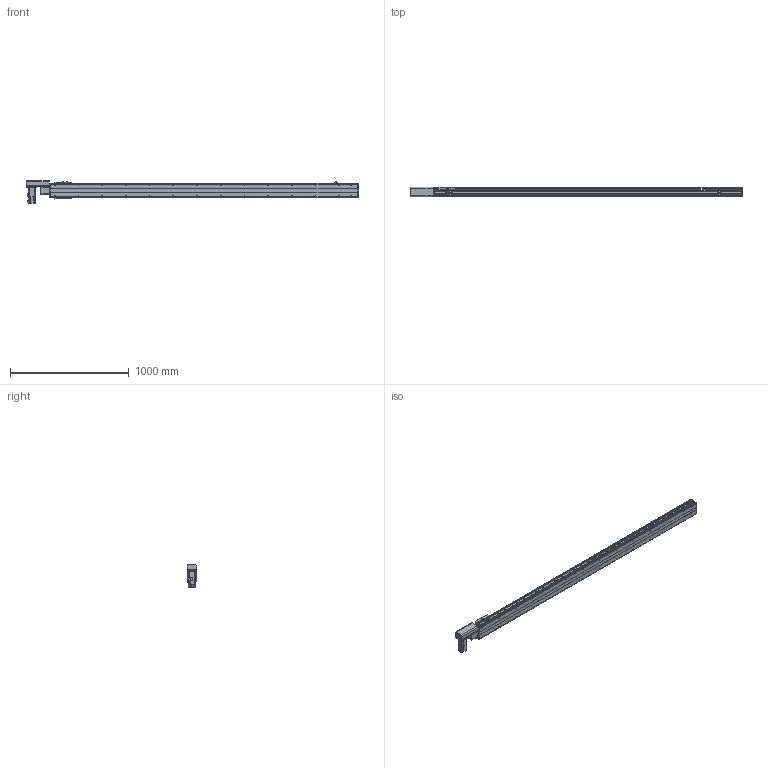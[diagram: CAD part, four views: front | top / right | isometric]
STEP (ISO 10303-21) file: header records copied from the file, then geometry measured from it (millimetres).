
FILE_DESCRIPTION(/* description */ ('STEP AP214'),/* implementation_level */ '2;1');
FILE_NAME(/* name */ 'PBS120-P40-S2300-R-T40-C1-N(0)',/* time_stamp */ '2022-06-06T02:09:59+02:00',/* author */ ('License CC BY-ND 4.0'),/* organization */ ('CADENAS'),/* preprocessor_version */ 'ST-DEVELOPER v18.102',/* originating_system */ 'PARTsolutions',/* authorisation */ ' ');
FILE_SCHEMA (('AUTOMOTIVE_DESIGN {1 0 10303 214 3 1 1}'));
Length unit declared in the file: millimetre
Products named in the file (7): PBS120-P40-S2300-R-T40-C1-N(0); PBS120_sensor; PBS120_plant; PBS120_sliser; T40-p1; PBS120T-R_motors; PBS120-S2300()_body
Assembly tree (8 placements, depth 2):
  PBS120-P40-S2300-R-T40-C1-N(0)
    PBS120_sensor  x3
    PBS120_plant
    PBS120_sliser
    T40-p1
    PBS120T-R_motors
    PBS120-S2300()_body
Bounding box: 2801 x 83 x 189.7 mm (x, y, z)
Volume: 10192627.5 mm3; surface area: 2097433 mm2
Topology: 8 solids, 8 shells, 864 faces, 2216 edges, 1423 vertices
Faces by surface type: plane 561, cylinder 241, cone 60, torus 2
Full cylindrical faces by diameter (mm): 2.459 x6, 3.242 x4, 4 x2, 4.134 x4, 4.5 x10, 4.917 x32, 5.5 x11, 6 x2, 6.6 x1, 7 x2, 8.5 x4, 9 x4, 12 x1, 14 x1, 30 x2, 40 x1, 50 x2
Entity records: 22314 total; most frequent: DIRECTION 3884, CARTESIAN_POINT 3785, ORIENTED_EDGE 3574, EDGE_CURVE 1787, AXIS2_PLACEMENT_3D 1328, VERTEX_POINT 1229, LINE 1228, VECTOR 1228
